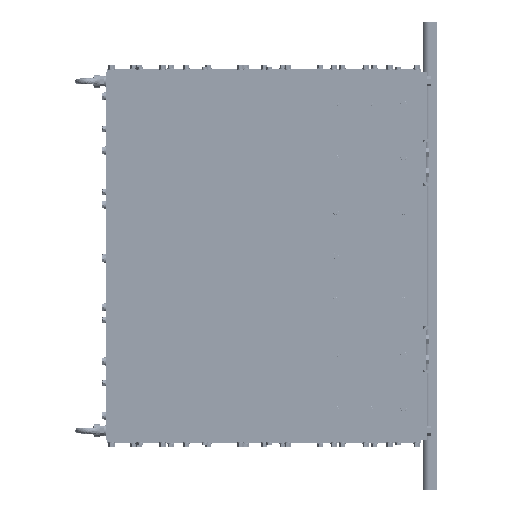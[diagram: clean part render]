
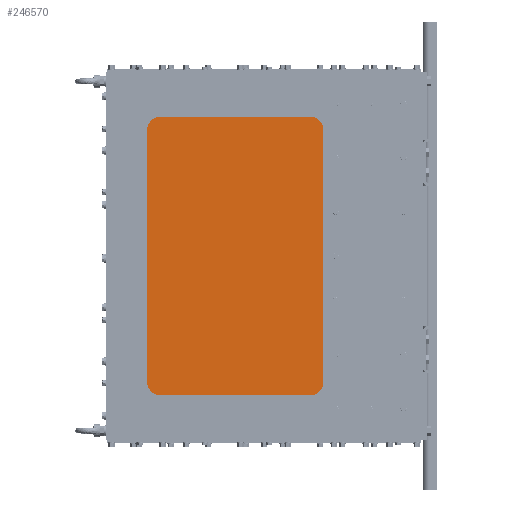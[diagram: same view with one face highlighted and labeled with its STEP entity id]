
A CAD part, left-side view. The second image highlights one B-rep face of the part: STEP entity #246570.
In plain terms, the highlighted planar face has unit normal (-1, 0, 0).
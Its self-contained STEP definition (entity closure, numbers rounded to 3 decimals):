
#48 = CARTESIAN_POINT ( 'NONE',  ( -757.5, 385., -205.5 ) ) ;
#5726 = DIRECTION ( 'NONE',  ( 0., 0., 1. ) ) ;
#6088 = VERTEX_POINT ( 'NONE', #239464 ) ;
#17593 = CARTESIAN_POINT ( 'NONE',  ( -757.5, 405., 205.5 ) ) ;
#43951 = CARTESIAN_POINT ( 'NONE',  ( -757.5, 145., 185.5 ) ) ;
#44188 = DIRECTION ( 'NONE',  ( 0., 0., -1. ) ) ;
#77470 = CARTESIAN_POINT ( 'NONE',  ( -757.5, 405., 205.5 ) ) ;
#80940 = AXIS2_PLACEMENT_3D ( 'NONE', #278738, #456839, #44188 ) ;
#83489 = DIRECTION ( 'NONE',  ( 0., 0., -1. ) ) ;
#86659 = DIRECTION ( 'NONE',  ( -1., 0., 0. ) ) ;
#102642 = ORIENTED_EDGE ( 'NONE', *, *, #217832, .T. ) ;
#138864 = ORIENTED_EDGE ( 'NONE', *, *, #540359, .F. ) ;
#139627 = EDGE_LOOP ( 'NONE', ( #576796, #590181, #466704, #102642, #138864, #581741, #272040, #314031 ) ) ;
#143084 = AXIS2_PLACEMENT_3D ( 'NONE', #366433, #86659, #550630 ) ;
#144289 = DIRECTION ( 'NONE',  ( 1., 0., 0. ) ) ;
#146306 = VERTEX_POINT ( 'NONE', #595625 ) ;
#147587 = LINE ( 'NONE', #563723, #205901 ) ;
#148905 = EDGE_CURVE ( 'NONE', #536836, #146306, #397999, .T. ) ;
#162930 = AXIS2_PLACEMENT_3D ( 'NONE', #346049, #249590, #343012 ) ;
#167507 = AXIS2_PLACEMENT_3D ( 'NONE', #457883, #144289, #276822 ) ;
#176900 = EDGE_CURVE ( 'NONE', #6088, #344653, #382983, .T. ) ;
#179646 = DIRECTION ( 'NONE',  ( -1., 0., 0. ) ) ;
#201902 = VERTEX_POINT ( 'NONE', #48 ) ;
#205901 = VECTOR ( 'NONE', #388355, 1000. ) ;
#214873 = CARTESIAN_POINT ( 'NONE',  ( -757.5, 385., 205.5 ) ) ;
#215848 = CARTESIAN_POINT ( 'NONE',  ( -757.5, 165., -185.5 ) ) ;
#217832 = EDGE_CURVE ( 'NONE', #293927, #201902, #373913, .T. ) ;
#239464 = CARTESIAN_POINT ( 'NONE',  ( -757.5, 165., -205.5 ) ) ;
#246570 = ADVANCED_FACE ( 'NONE', ( #545600 ), #319167, .F. ) ;
#249590 = DIRECTION ( 'NONE',  ( -1., 0., 0. ) ) ;
#256399 = CARTESIAN_POINT ( 'NONE',  ( -757.5, 165., 205.5 ) ) ;
#272037 = VECTOR ( 'NONE', #490220, 1000. ) ;
#272040 = ORIENTED_EDGE ( 'NONE', *, *, #296415, .F. ) ;
#276822 = DIRECTION ( 'NONE',  ( 0., 0., -1. ) ) ;
#277722 = DIRECTION ( 'NONE',  ( 0., 0., -1. ) ) ;
#278738 = CARTESIAN_POINT ( 'NONE',  ( -757.5, 385., 185.5 ) ) ;
#293927 = VERTEX_POINT ( 'NONE', #325525 ) ;
#296415 = EDGE_CURVE ( 'NONE', #408641, #344653, #507209, .T. ) ;
#314031 = ORIENTED_EDGE ( 'NONE', *, *, #341210, .T. ) ;
#314079 = VERTEX_POINT ( 'NONE', #256399 ) ;
#319167 = PLANE ( 'NONE',  #167507 ) ;
#325525 = CARTESIAN_POINT ( 'NONE',  ( -757.5, 405., -185.5 ) ) ;
#341210 = EDGE_CURVE ( 'NONE', #408641, #314079, #413158, .T. ) ;
#343012 = DIRECTION ( 'NONE',  ( 0., 0., -1. ) ) ;
#344653 = VERTEX_POINT ( 'NONE', #552352 ) ;
#346049 = CARTESIAN_POINT ( 'NONE',  ( -757.5, 165., 185.5 ) ) ;
#366433 = CARTESIAN_POINT ( 'NONE',  ( -757.5, 385., -185.5 ) ) ;
#373913 = CIRCLE ( 'NONE', #143084, 20. ) ;
#382983 = CIRCLE ( 'NONE', #585746, 20. ) ;
#388355 = DIRECTION ( 'NONE',  ( 0., 1., 0. ) ) ;
#397999 = CIRCLE ( 'NONE', #80940, 20. ) ;
#399474 = LINE ( 'NONE', #77470, #272037 ) ;
#408641 = VERTEX_POINT ( 'NONE', #43951 ) ;
#410479 = CARTESIAN_POINT ( 'NONE',  ( -757.5, 145., 205.5 ) ) ;
#413158 = CIRCLE ( 'NONE', #162930, 20. ) ;
#456839 = DIRECTION ( 'NONE',  ( -1., 0., 0. ) ) ;
#457883 = CARTESIAN_POINT ( 'NONE',  ( -757.5, 225., 0. ) ) ;
#466704 = ORIENTED_EDGE ( 'NONE', *, *, #506267, .F. ) ;
#490220 = DIRECTION ( 'NONE',  ( 0., -1., 0. ) ) ;
#506267 = EDGE_CURVE ( 'NONE', #293927, #146306, #521039, .T. ) ;
#507209 = LINE ( 'NONE', #410479, #544751 ) ;
#521039 = LINE ( 'NONE', #17593, #567677 ) ;
#536836 = VERTEX_POINT ( 'NONE', #214873 ) ;
#539706 = EDGE_CURVE ( 'NONE', #536836, #314079, #399474, .T. ) ;
#540359 = EDGE_CURVE ( 'NONE', #6088, #201902, #147587, .T. ) ;
#544751 = VECTOR ( 'NONE', #277722, 1000. ) ;
#545600 = FACE_OUTER_BOUND ( 'NONE', #139627, .T. ) ;
#550630 = DIRECTION ( 'NONE',  ( 0., 0., -1. ) ) ;
#552352 = CARTESIAN_POINT ( 'NONE',  ( -757.5, 145., -185.5 ) ) ;
#563723 = CARTESIAN_POINT ( 'NONE',  ( -757.5, 405., -205.5 ) ) ;
#567677 = VECTOR ( 'NONE', #5726, 1000. ) ;
#576796 = ORIENTED_EDGE ( 'NONE', *, *, #539706, .F. ) ;
#581741 = ORIENTED_EDGE ( 'NONE', *, *, #176900, .T. ) ;
#585746 = AXIS2_PLACEMENT_3D ( 'NONE', #215848, #179646, #83489 ) ;
#590181 = ORIENTED_EDGE ( 'NONE', *, *, #148905, .T. ) ;
#595625 = CARTESIAN_POINT ( 'NONE',  ( -757.5, 405., 185.5 ) ) ;
